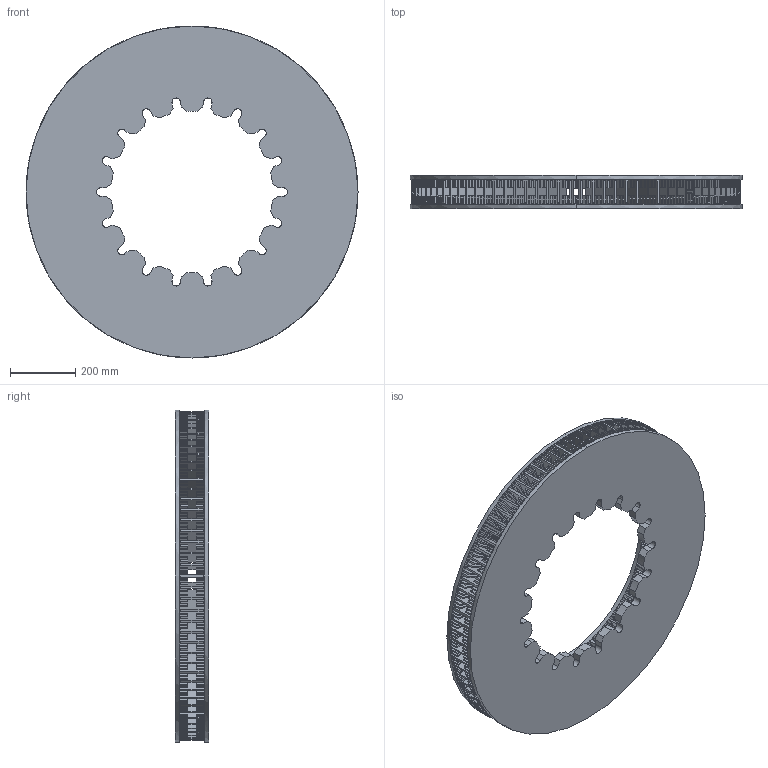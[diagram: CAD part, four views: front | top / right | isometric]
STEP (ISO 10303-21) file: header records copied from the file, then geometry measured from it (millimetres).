
FILE_DESCRIPTION (( 'STEP AP214' ), '1' );
FILE_NAME ('4-07-40.STEP', '2015-11-20T19:35:11', ( '' ), ( '' ), 'SwSTEP 2.0', 'SolidWorks 2015', '' );
FILE_SCHEMA (( 'AUTOMOTIVE_DESIGN' ));
Length unit declared in the file: millimetre
Products named in the file (1): 4-07-40
Bounding box: 1016 x 101.6 x 1016 mm (x, y, z)
Volume: 27526762.3 mm3; surface area: 7089333.9 mm2
Topology: 1 solids, 1 shells, 4639 faces, 12901 edges, 8626 vertices
Faces by surface type: plane 3463, cylinder 632, bspline 512, cone 30, torus 2
Entity records: 197074 total; most frequent: CARTESIAN_POINT 88349, ORIENTED_EDGE 25802, DIRECTION 17355, EDGE_CURVE 12901, VERTEX_POINT 8626, LINE 7633, VECTOR 7633, EDGE_LOOP 5183
